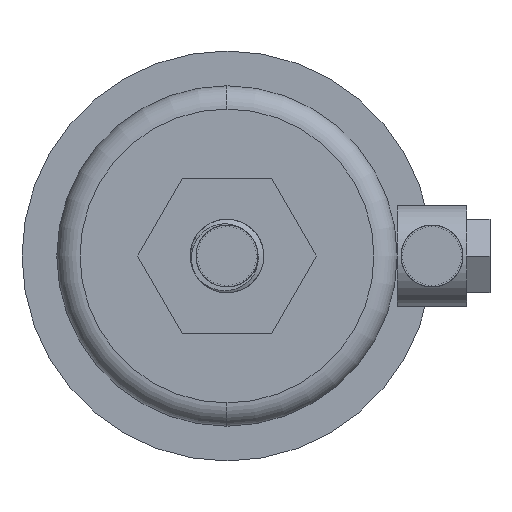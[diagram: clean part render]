
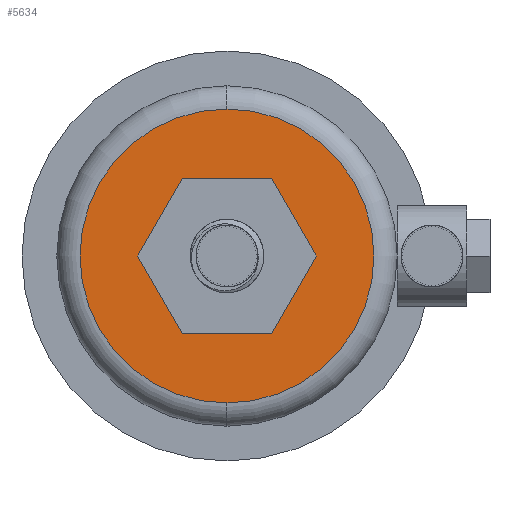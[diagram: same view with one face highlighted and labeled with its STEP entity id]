
A CAD part, front view. The second image highlights one B-rep face of the part: STEP entity #5634.
In plain terms, the highlighted planar face has unit normal (0, -1, 0).
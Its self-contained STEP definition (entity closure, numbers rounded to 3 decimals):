
#556 = ORIENTED_EDGE ( 'NONE', *, *, #11667, .F. ) ;
#982 = CARTESIAN_POINT ( 'NONE',  ( 5.774, 0., 10. ) ) ;
#1090 = LINE ( 'NONE', #4267, #13012 ) ;
#1522 = DIRECTION ( 'NONE',  ( 0., 0., 1. ) ) ;
#1553 = VECTOR ( 'NONE', #11854, 1000. ) ;
#1595 = DIRECTION ( 'NONE',  ( 0., 1., 0. ) ) ;
#1630 = EDGE_CURVE ( 'NONE', #9287, #4955, #7960, .T. ) ;
#1749 = EDGE_CURVE ( 'NONE', #4955, #8280, #12121, .T. ) ;
#2167 = CARTESIAN_POINT ( 'NONE',  ( 0., 0., 0. ) ) ;
#2897 = AXIS2_PLACEMENT_3D ( 'NONE', #5042, #7529, #1522 ) ;
#3217 = DIRECTION ( 'NONE',  ( 1., 0., 0. ) ) ;
#3411 = DIRECTION ( 'NONE',  ( -0.5, 0., 0.866 ) ) ;
#3594 = VECTOR ( 'NONE', #15668, 1000. ) ;
#3771 = EDGE_LOOP ( 'NONE', ( #12319, #4216 ) ) ;
#3959 = LINE ( 'NONE', #9077, #10414 ) ;
#4167 = EDGE_LOOP ( 'NONE', ( #556, #14710, #10800, #11638, #12788, #9609 ) ) ;
#4216 = ORIENTED_EDGE ( 'NONE', *, *, #8837, .T. ) ;
#4267 = CARTESIAN_POINT ( 'NONE',  ( -5.774, 0., -10. ) ) ;
#4501 = EDGE_CURVE ( 'NONE', #10957, #10891, #13932, .T. ) ;
#4542 = CARTESIAN_POINT ( 'NONE',  ( 0., 0., -19. ) ) ;
#4872 = CIRCLE ( 'NONE', #11060, 19. ) ;
#4955 = VERTEX_POINT ( 'NONE', #13484 ) ;
#5042 = CARTESIAN_POINT ( 'NONE',  ( 0., 0., 0. ) ) ;
#5357 = CARTESIAN_POINT ( 'NONE',  ( -5.774, 0., 10. ) ) ;
#5610 = PLANE ( 'NONE',  #9790 ) ;
#5634 = ADVANCED_FACE ( 'NONE', ( #10470, #9142 ), #5610, .F. ) ;
#6377 = CARTESIAN_POINT ( 'NONE',  ( 0., 0., 0. ) ) ;
#7062 = DIRECTION ( 'NONE',  ( 0., -1., 0. ) ) ;
#7299 = CARTESIAN_POINT ( 'NONE',  ( 5.774, 0., 10. ) ) ;
#7529 = DIRECTION ( 'NONE',  ( 0., -1., 0. ) ) ;
#7721 = LINE ( 'NONE', #9921, #10186 ) ;
#7795 = CARTESIAN_POINT ( 'NONE',  ( 5.774, 0., -10. ) ) ;
#7960 = LINE ( 'NONE', #10675, #3594 ) ;
#8280 = VERTEX_POINT ( 'NONE', #11233 ) ;
#8769 = DIRECTION ( 'NONE',  ( 0., 0., 1. ) ) ;
#8837 = EDGE_CURVE ( 'NONE', #10891, #10957, #4872, .T. ) ;
#9039 = EDGE_CURVE ( 'NONE', #13338, #9090, #7721, .T. ) ;
#9077 = CARTESIAN_POINT ( 'NONE',  ( 11.547, 0., 0. ) ) ;
#9090 = VERTEX_POINT ( 'NONE', #12461 ) ;
#9136 = VECTOR ( 'NONE', #12235, 1000. ) ;
#9142 = FACE_BOUND ( 'NONE', #4167, .T. ) ;
#9287 = VERTEX_POINT ( 'NONE', #5357 ) ;
#9609 = ORIENTED_EDGE ( 'NONE', *, *, #12563, .F. ) ;
#9790 = AXIS2_PLACEMENT_3D ( 'NONE', #6377, #1595, #8769 ) ;
#9921 = CARTESIAN_POINT ( 'NONE',  ( 5.774, 0., -10. ) ) ;
#10119 = DIRECTION ( 'NONE',  ( 0.5, 0., 0.866 ) ) ;
#10186 = VECTOR ( 'NONE', #10119, 1000. ) ;
#10370 = EDGE_CURVE ( 'NONE', #8280, #13338, #1090, .T. ) ;
#10414 = VECTOR ( 'NONE', #3411, 1000. ) ;
#10470 = FACE_OUTER_BOUND ( 'NONE', #3771, .T. ) ;
#10675 = CARTESIAN_POINT ( 'NONE',  ( -5.774, 0., 10. ) ) ;
#10775 = DIRECTION ( 'NONE',  ( 0., 0., 1. ) ) ;
#10800 = ORIENTED_EDGE ( 'NONE', *, *, #10370, .F. ) ;
#10891 = VERTEX_POINT ( 'NONE', #4542 ) ;
#10957 = VERTEX_POINT ( 'NONE', #14476 ) ;
#11060 = AXIS2_PLACEMENT_3D ( 'NONE', #2167, #7062, #10775 ) ;
#11233 = CARTESIAN_POINT ( 'NONE',  ( -5.774, 0., -10. ) ) ;
#11638 = ORIENTED_EDGE ( 'NONE', *, *, #1749, .F. ) ;
#11667 = EDGE_CURVE ( 'NONE', #9090, #14484, #3959, .T. ) ;
#11854 = DIRECTION ( 'NONE',  ( 0.5, 0., -0.866 ) ) ;
#12121 = LINE ( 'NONE', #12878, #1553 ) ;
#12235 = DIRECTION ( 'NONE',  ( -1., 0., 0. ) ) ;
#12319 = ORIENTED_EDGE ( 'NONE', *, *, #4501, .T. ) ;
#12364 = LINE ( 'NONE', #7299, #9136 ) ;
#12461 = CARTESIAN_POINT ( 'NONE',  ( 11.547, 0., 0. ) ) ;
#12563 = EDGE_CURVE ( 'NONE', #14484, #9287, #12364, .T. ) ;
#12788 = ORIENTED_EDGE ( 'NONE', *, *, #1630, .F. ) ;
#12878 = CARTESIAN_POINT ( 'NONE',  ( -11.547, 0., 0. ) ) ;
#13012 = VECTOR ( 'NONE', #3217, 1000. ) ;
#13338 = VERTEX_POINT ( 'NONE', #7795 ) ;
#13484 = CARTESIAN_POINT ( 'NONE',  ( -11.547, 0., 0. ) ) ;
#13932 = CIRCLE ( 'NONE', #2897, 19. ) ;
#14476 = CARTESIAN_POINT ( 'NONE',  ( 0., 0., 19. ) ) ;
#14484 = VERTEX_POINT ( 'NONE', #982 ) ;
#14710 = ORIENTED_EDGE ( 'NONE', *, *, #9039, .F. ) ;
#15668 = DIRECTION ( 'NONE',  ( -0.5, 0., -0.866 ) ) ;
